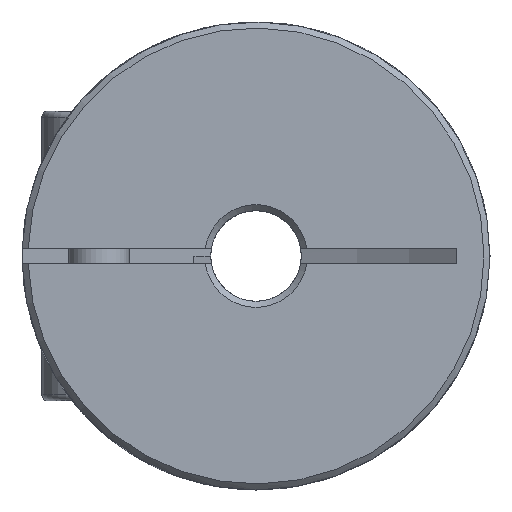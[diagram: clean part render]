
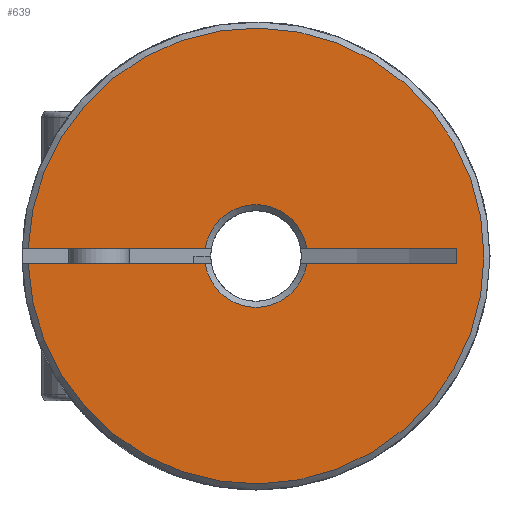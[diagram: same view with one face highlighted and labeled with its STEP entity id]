
A CAD part, left-side view. The second image highlights one B-rep face of the part: STEP entity #639.
In plain terms, the highlighted planar face has unit normal (-1, 0, 0).
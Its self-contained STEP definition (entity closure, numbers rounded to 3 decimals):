
#639 = ADVANCED_FACE( 'NONE', ( #1335 ), #1336, .F. );
#1335 = FACE_OUTER_BOUND( '', #2053, .T. );
#1336 = PLANE( '', #2054 );
#2053 = EDGE_LOOP( '', ( #3367, #3368, #3369, #3370, #3371, #3372, #3373, #3374 ) );
#2054 = AXIS2_PLACEMENT_3D( '', #3375, #3376, #3377 );
#3367 = ORIENTED_EDGE( '', *, *, #4002, .T. );
#3368 = ORIENTED_EDGE( '', *, *, #4124, .T. );
#3369 = ORIENTED_EDGE( '', *, *, #4162, .T. );
#3370 = ORIENTED_EDGE( '', *, *, #3985, .T. );
#3371 = ORIENTED_EDGE( '', *, *, #4103, .F. );
#3372 = ORIENTED_EDGE( '', *, *, #3894, .T. );
#3373 = ORIENTED_EDGE( '', *, *, #4160, .F. );
#3374 = ORIENTED_EDGE( '', *, *, #3706, .T. );
#3375 = CARTESIAN_POINT( '', ( 0., 1.5, 0. ) );
#3376 = DIRECTION( '', ( 1., 0., 0. ) );
#3377 = DIRECTION( '', ( 0., 1., 0. ) );
#3706 = EDGE_CURVE( 'NONE', #4292, #4296, #4298, .T. );
#3894 = EDGE_CURVE( 'NONE', #4607, #4605, #4608, .T. );
#3985 = EDGE_CURVE( 'NONE', #4737, #4738, #4739, .F. );
#4002 = EDGE_CURVE( 'NONE', #4296, #4762, #4764, .T. );
#4103 = EDGE_CURVE( 'NONE', #4607, #4738, #4893, .F. );
#4124 = EDGE_CURVE( 'NONE', #4762, #4918, #4920, .T. );
#4160 = EDGE_CURVE( 'NONE', #4292, #4605, #4961, .F. );
#4162 = EDGE_CURVE( 'NONE', #4918, #4737, #4963, .T. );
#4292 = VERTEX_POINT( 'NONE', #5112 );
#4296 = VERTEX_POINT( 'NONE', #5119 );
#4298 = LINE( '', #5121, #5122 );
#4605 = VERTEX_POINT( 'NONE', #5565 );
#4607 = VERTEX_POINT( 'NONE', #5570 );
#4608 = CIRCLE( '', #5571, 1.7 );
#4737 = VERTEX_POINT( 'NONE', #5732 );
#4738 = VERTEX_POINT( 'NONE', #5733 );
#4739 = CIRCLE( '', #5734, 7.55 );
#4762 = VERTEX_POINT( 'NONE', #5767 );
#4764 = LINE( '', #5772, #5773 );
#4893 = LINE( '', #5976, #5977 );
#4918 = VERTEX_POINT( 'NONE', #6039 );
#4920 = CIRCLE( '', #6044, 1.7 );
#4961 = LINE( '', #6101, #6102 );
#4963 = LINE( '', #6104, #6105 );
#5112 = CARTESIAN_POINT( '', ( 0., 6.624, -0.25 ) );
#5119 = CARTESIAN_POINT( '', ( 0., 6.624, 0.25 ) );
#5121 = CARTESIAN_POINT( '', ( 0., 6.624, -0.25 ) );
#5122 = VECTOR( '', #6240, 1000. );
#5565 = CARTESIAN_POINT( '', ( 0., 1.682, -0.25 ) );
#5570 = CARTESIAN_POINT( '', ( 0., -1.682, -0.25 ) );
#5571 = AXIS2_PLACEMENT_3D( '', #6551, #6552, #6553 );
#5732 = CARTESIAN_POINT( '', ( 0., -7.546, 0.25 ) );
#5733 = CARTESIAN_POINT( '', ( 0., -7.546, -0.25 ) );
#5734 = AXIS2_PLACEMENT_3D( '', #6691, #6692, #6693 );
#5767 = CARTESIAN_POINT( '', ( 0., 1.682, 0.25 ) );
#5772 = CARTESIAN_POINT( '', ( 0., 1.5, 0.25 ) );
#5773 = VECTOR( '', #6713, 1000. );
#5976 = CARTESIAN_POINT( '', ( 0., -4.5, -0.25 ) );
#5977 = VECTOR( '', #6833, 1000. );
#6039 = CARTESIAN_POINT( '', ( 0., -1.682, 0.25 ) );
#6044 = AXIS2_PLACEMENT_3D( '', #6854, #6855, #6856 );
#6101 = CARTESIAN_POINT( '', ( 0., -4.5, -0.25 ) );
#6102 = VECTOR( '', #6897, 1000. );
#6104 = CARTESIAN_POINT( '', ( 0., 1.5, 0.25 ) );
#6105 = VECTOR( '', #6898, 1000. );
#6240 = DIRECTION( '', ( 0., 0., 1. ) );
#6551 = CARTESIAN_POINT( '', ( 0., 0., 0. ) );
#6552 = DIRECTION( '', ( 1., 0., 0. ) );
#6553 = DIRECTION( '', ( 0., 0., -1. ) );
#6691 = CARTESIAN_POINT( '', ( 0., 0., 0. ) );
#6692 = DIRECTION( '', ( 1., 0., 0. ) );
#6693 = DIRECTION( '', ( 0., 0., -1. ) );
#6713 = DIRECTION( '', ( 0., -1., 0. ) );
#6833 = DIRECTION( '', ( 0., 1., 0. ) );
#6854 = CARTESIAN_POINT( '', ( 0., 0., 0. ) );
#6855 = DIRECTION( '', ( 1., 0., 0. ) );
#6856 = DIRECTION( '', ( 0., 0., -1. ) );
#6897 = DIRECTION( '', ( 0., 1., 0. ) );
#6898 = DIRECTION( '', ( 0., -1., 0. ) );
